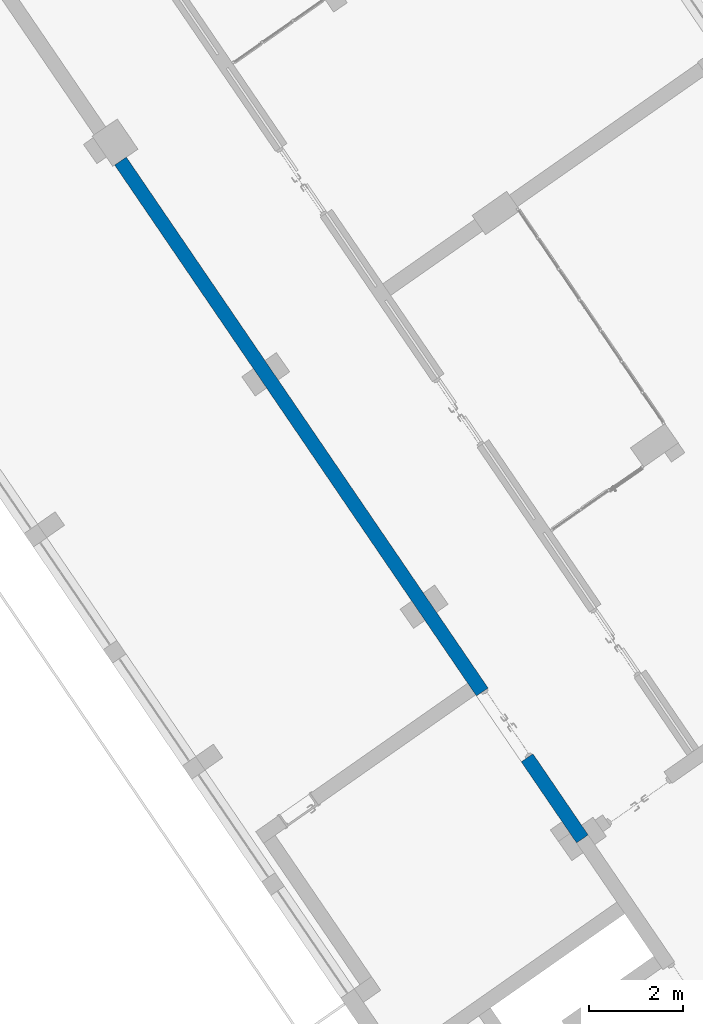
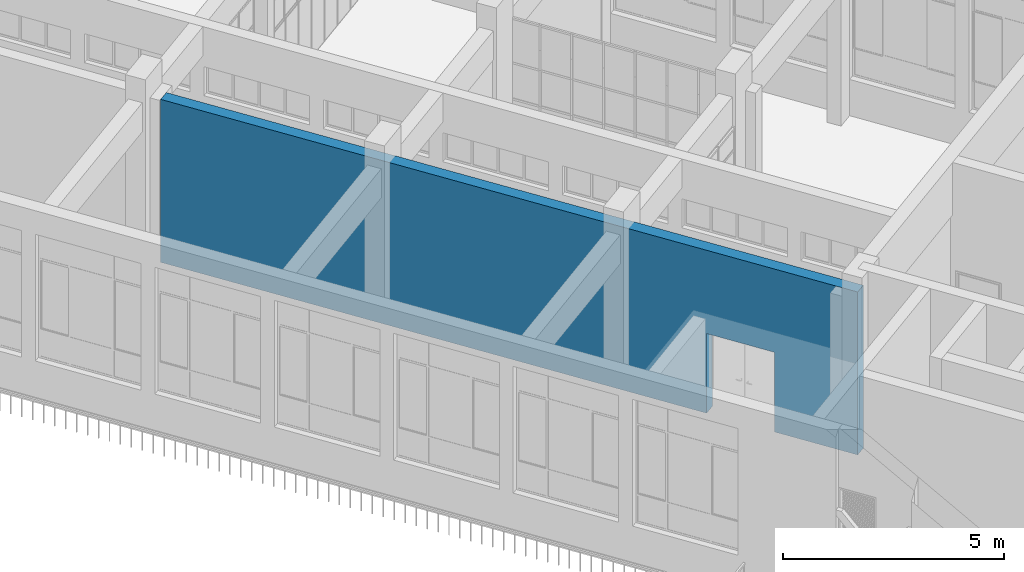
# One storey, part 63 of 157: 1 wall, 1 opening.
"""IFC2X3 building model written with IfcOpenShell, lengths in millimetres."""

import ifcopenshell
import ifcopenshell.guid

model = None  # the IFC model being written
_history = None  # IfcOwnerHistory: only IFC2X3 demands one
_inside = {}  # id of a spatial element -> (the spatial element, [elements in it])
_under = {}  # id of a project, library or spatial element -> (it, [spatial elements below it])
_declared = {}  # id of a project -> (the project, [libraries it declares])
_typed = {}  # id of a type object -> (the type object, [elements of that type])
_made_of = {}  # id of a material, layer set ... -> (it, [elements and type objects made of it])


def new_model(schema):
    """Start an empty IFC model of exactly this schema.

    Asked for "IFC4X3", IfcOpenShell would pick the latest addendum, in which some entities
    have other attributes; the version numbers below select the first issue.
    IFC2X3 requires an IfcOwnerHistory on every rooted entity: one is made here for all.
    """
    global model, _history
    if schema == "IFC4X3":
        model = ifcopenshell.file(schema_version=(4, 3, 0, 0))
    else:
        model = ifcopenshell.file(schema=schema)
    _inside.clear()
    _under.clear()
    _declared.clear()
    _typed.clear()
    _made_of.clear()
    _history = None
    if model.schema == "IFC2X3":
        org = make("IfcOrganization", Name="unknown")
        user = make(
            "IfcPersonAndOrganization",
            ThePerson=make("IfcPerson", FamilyName="unknown"),
            TheOrganization=org,
        )
        app = make(
            "IfcApplication",
            ApplicationDeveloper=org,
            Version="unknown",
            ApplicationFullName="unknown",
            ApplicationIdentifier="unknown",
        )
        _history = make(
            "IfcOwnerHistory",
            OwningUser=user,
            OwningApplication=app,
            ChangeAction="ADDED",
            CreationDate=0,
        )
    return model


def make(cls, **values):
    """One entity of the class cls with the attributes given. An attribute that is None is left unset."""
    return model.create_entity(
        cls, **{name: value for name, value in values.items() if value is not None}
    )


def entity(cls, *values):
    """Any entity or typed value of the class cls, its attributes in the order of the schema. None: left unset."""
    e = model.create_entity(cls)
    for i, value in enumerate(values):
        if value is not None:
            e[i] = value
    return e


def rooted(cls, **values):
    """An entity with a GlobalId (a new one), such as an element, a storey or a relation."""
    return make(cls, GlobalId=ifcopenshell.guid.new(), OwnerHistory=_history, **values)


def si_unit(unit_type, name, prefix=None):
    """IfcSIUnit, for example si_unit("LENGTHUNIT", "METRE", prefix="MILLI")."""
    return make("IfcSIUnit", UnitType=unit_type, Prefix=prefix, Name=name)


def converted_unit(unit_type, name, factor, base, dimensions=None, offset=None):
    """IfcConversionBasedUnit, such as the inch: factor (a typed value) times the base unit."""
    return make(
        "IfcConversionBasedUnit"
        if offset is None
        else "IfcConversionBasedUnitWithOffset",
        ConversionOffset=offset,
        Dimensions=None
        if dimensions is None
        else entity("IfcDimensionalExponents", *dimensions),
        UnitType=unit_type,
        Name=name,
        ConversionFactor=make(
            "IfcMeasureWithUnit", ValueComponent=factor, UnitComponent=base
        ),
    )


def derived_unit(unit_type, elements):
    """IfcDerivedUnit: a product of units, each with its exponent."""
    return make(
        "IfcDerivedUnit",
        Elements=[
            make("IfcDerivedUnitElement", Unit=unit, Exponent=power)
            for unit, power in elements
        ],
        UnitType=unit_type,
    )


def assignment(units):
    """IfcUnitAssignment: the units of a project."""
    return None if units is None else make("IfcUnitAssignment", Units=units)


def point(xyz):
    """IfcCartesianPoint."""
    return None if xyz is None else make("IfcCartesianPoint", Coordinates=xyz)


def direction(xyz):
    """IfcDirection."""
    return None if xyz is None else make("IfcDirection", DirectionRatios=xyz)


def frame(location, z_axis=None, x_axis=None):
    """IfcAxis2Placement3D, a coordinate frame: its origin and axes. An axis left out is left unset."""
    return make(
        "IfcAxis2Placement3D",
        Location=point(location),
        Axis=direction(z_axis),
        RefDirection=direction(x_axis),
    )


def frame_2d(location, x_axis=None):
    """IfcAxis2Placement2D, a coordinate frame in the plane: its origin and x axis."""
    return make(
        "IfcAxis2Placement2D", Location=point(location), RefDirection=direction(x_axis)
    )


def origin():
    """The frame at (0, 0, 0) with its axes left unset."""
    return frame((0.0, 0.0, 0.0))


def place(relative_to, where):
    """IfcLocalPlacement: puts the frame where relative to a parent placement (None: the world)."""
    return make(
        "IfcLocalPlacement", PlacementRelTo=relative_to, RelativePlacement=where
    )


def context(
    kind, dimensions, precision=None, world=None, true_north=None, identifier=None
):
    """IfcGeometricRepresentationContext, for example the 3D "Model" context."""
    return make(
        "IfcGeometricRepresentationContext",
        ContextIdentifier=identifier,
        ContextType=kind,
        CoordinateSpaceDimension=dimensions,
        Precision=precision,
        WorldCoordinateSystem=world,
        TrueNorth=true_north,
    )


def subcontext(parent, identifier, kind, view, scale=None):
    """IfcGeometricRepresentationSubContext, for example "Body" below "Model"."""
    return make(
        "IfcGeometricRepresentationSubContext",
        ContextIdentifier=identifier,
        ContextType=kind,
        ParentContext=parent,
        TargetScale=scale,
        TargetView=view,
    )


def project(units=None, contexts=None):
    """IfcProject with its units and contexts."""
    return rooted(
        "IfcProject",
        Name="project",
        RepresentationContexts=contexts,
        UnitsInContext=assignment(units),
    )


def spatial(cls, under=None, at=None, **own):
    """A site, building, storey or space (cls), placed at a placement, below another one or the project."""
    s = rooted(cls, ObjectPlacement=at, **own)
    if under is not None:
        _under.setdefault(under.id(), (under, []))[1].append(s)
    return s


def profile(cls, at=None, kind="AREA", **sizes):
    """A parametric profile (cls). Its sizes go by their IFC names, for example OverallWidth=200.0."""
    return make(cls, ProfileType=kind, Position=at, **sizes)


def rectangle(**sizes):
    """IfcRectangleProfileDef."""
    return profile("IfcRectangleProfileDef", **sizes)


def extrude(swept, where, along, depth):
    """IfcExtrudedAreaSolid: the profile swept, set in the frame where, extruded along a direction by depth."""
    return make(
        "IfcExtrudedAreaSolid",
        SweptArea=swept,
        Position=where,
        ExtrudedDirection=direction(along),
        Depth=depth,
    )


def shape(context_of_items, identifier, shape_type, items):
    """IfcShapeRepresentation: the items that make up one representation, for example the "Body"."""
    return make(
        "IfcShapeRepresentation",
        ContextOfItems=context_of_items,
        RepresentationIdentifier=identifier,
        RepresentationType=shape_type,
        Items=items,
    )


def material(Name=None, Category=None):
    """IfcMaterial."""
    return make("IfcMaterial", Name=Name, Category=Category)


def layer(
    of_material, thickness, ventilated=None, Name=None, Category=None, Priority=None
):
    """IfcMaterialLayer: one layer of a wall or slab, of a material (None: an air gap)."""
    return make(
        "IfcMaterialLayer",
        Material=of_material,
        LayerThickness=thickness,
        IsVentilated=ventilated,
        Name=Name,
        Category=Category,
        Priority=Priority,
    )


def layer_set(layers, Name=None):
    """IfcMaterialLayerSet."""
    return make("IfcMaterialLayerSet", MaterialLayers=layers, LayerSetName=Name)


def layer_usage(for_layer_set, set_direction, sense, offset, extent=None):
    """IfcMaterialLayerSetUsage: how a layer set lies in its element."""
    return make(
        "IfcMaterialLayerSetUsage",
        ForLayerSet=for_layer_set,
        LayerSetDirection=set_direction,
        DirectionSense=sense,
        OffsetFromReferenceLine=offset,
        ReferenceExtent=extent,
    )


def made_of(thing, what):
    """Note that an element or type object is made of a material, layer set ...; save() writes the relation."""
    if what is not None:
        _made_of.setdefault(what.id(), (what, []))[1].append(thing)
    return thing


def type_object(cls, material=None, **own):
    """A type object (cls), such as IfcWallType, which elements share."""
    return made_of(rooted(cls, **own), material)


def element(
    cls,
    number,
    at=None,
    inside=None,
    cuts=None,
    type_object=None,
    material=None,
    context=None,
    identifier="Body",
    shape_type=None,
    held_by="IfcProductDefinitionShape",
    body=None,
    shapes=None,
    **own,
):
    """One element of the class cls, such as IfcWall. Its Tag is "e" and its number.

    at: its placement. inside: the storey or other place that contains it. cuts: it is an
    opening in that element (IfcRelVoidsElement). A single representation is given by context,
    identifier, shape_type and body (its items); several are given by shapes. held_by: the class
    of the entity that holds the representations. save() writes the other relations.
    """
    e = rooted(cls, Tag="e%d" % number, ObjectPlacement=at, **own)
    if body is not None:
        shapes = [shape(context, identifier, shape_type, body)]
    if shapes is not None:
        e.Representation = make(held_by, Representations=shapes)
    if inside is not None:
        _inside.setdefault(inside.id(), (inside, []))[1].append(e)
    if cuts is not None:
        rooted(
            "IfcRelVoidsElement", RelatingBuildingElement=cuts, RelatedOpeningElement=e
        )
    if type_object is not None:
        _typed.setdefault(type_object.id(), (type_object, []))[1].append(e)
    return made_of(e, material)


def aggregate(whole, parts):
    """IfcRelAggregates: a whole, such as a stair, and the parts it consists of."""
    return rooted("IfcRelAggregates", RelatingObject=whole, RelatedObjects=parts)


def save(model, path):
    """Write the relations noted so far, then the file.

    IfcRelAggregates (storeys below a building ...), IfcRelContainedInSpatialStructure (elements
    in a storey), IfcRelDefinesByType, IfcRelAssociatesMaterial and IfcRelDeclares: one each for
    every whole, place, type object, material and project.
    """
    for whole, parts in _under.values():
        aggregate(whole, parts)
    for where, things in _inside.values():
        rooted(
            "IfcRelContainedInSpatialStructure",
            RelatedElements=things,
            RelatingStructure=where,
        )
    for kind, things in _typed.values():
        rooted("IfcRelDefinesByType", RelatedObjects=things, RelatingType=kind)
    for what, things in _made_of.values():
        rooted("IfcRelAssociatesMaterial", RelatedObjects=things, RelatingMaterial=what)
    for by, libraries in _declared.values():
        rooted("IfcRelDeclares", RelatingContext=by, RelatedDefinitions=libraries)
    model.write(path)


model = new_model("IFC2X3")

# Units and contexts
model_context = context("Model", 3, precision=0.01, world=origin(), true_north=direction((6.123031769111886e-17, 1.0)))
body_context = subcontext(model_context, "Body", "Model", "MODEL_VIEW")
ifc_project = project(units=[si_unit("LENGTHUNIT", "METRE", prefix="MILLI"), si_unit("AREAUNIT", "SQUARE_METRE"), si_unit("VOLUMEUNIT", "CUBIC_METRE"), converted_unit("PLANEANGLEUNIT", "DEGREE", entity("IfcRatioMeasure", 0.017453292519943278), si_unit("PLANEANGLEUNIT", "RADIAN"), dimensions=[0, 0, 0, 0, 0, 0, 0]), si_unit("MASSUNIT", "GRAM", prefix="KILO"), derived_unit("MASSDENSITYUNIT", [(si_unit("MASSUNIT", "GRAM", prefix="KILO"), 1), (si_unit("LENGTHUNIT", "METRE"), -3)]), derived_unit("MOMENTOFINERTIAUNIT", [(si_unit("LENGTHUNIT", "METRE"), 4)]), si_unit("TIMEUNIT", "SECOND"), si_unit("FREQUENCYUNIT", "HERTZ"), si_unit("THERMODYNAMICTEMPERATUREUNIT", "DEGREE_CELSIUS"), derived_unit("THERMALTRANSMITTANCEUNIT", [(si_unit("MASSUNIT", "GRAM", prefix="KILO"), 1), (si_unit("THERMODYNAMICTEMPERATUREUNIT", "KELVIN"), -1), (si_unit("TIMEUNIT", "SECOND"), -3)]), derived_unit("THERMALCONDUCTANCEUNIT", [(si_unit("MASSUNIT", "GRAM", prefix="KILO"), 1), (si_unit("LENGTHUNIT", "METRE"), 1), (si_unit("THERMODYNAMICTEMPERATUREUNIT", "KELVIN"), -1), (si_unit("TIMEUNIT", "SECOND"), -3)]), derived_unit("VOLUMETRICFLOWRATEUNIT", [(si_unit("LENGTHUNIT", "METRE"), 3), (si_unit("TIMEUNIT", "SECOND"), -1)]), derived_unit("MASSFLOWRATEUNIT", [(si_unit("MASSUNIT", "GRAM", prefix="KILO"), 1), (si_unit("TIMEUNIT", "SECOND"), -1)]), derived_unit("ROTATIONALFREQUENCYUNIT", [(si_unit("TIMEUNIT", "SECOND"), -1)]), si_unit("ELECTRICCURRENTUNIT", "AMPERE"), si_unit("ELECTRICVOLTAGEUNIT", "VOLT"), si_unit("POWERUNIT", "WATT"), converted_unit("FORCEUNIT", "KIP", entity("IfcRatioMeasure", 2.088543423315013e-05), si_unit("FORCEUNIT", "NEWTON"), dimensions=[1, 1, -2, 0, 0, 0, 0]), si_unit("ILLUMINANCEUNIT", "LUX"), si_unit("LUMINOUSFLUXUNIT", "LUMEN"), si_unit("LUMINOUSINTENSITYUNIT", "CANDELA"), derived_unit("USERDEFINED", [(si_unit("MASSUNIT", "GRAM", prefix="KILO"), -1), (si_unit("LENGTHUNIT", "METRE"), -2), (si_unit("TIMEUNIT", "SECOND"), 3), (si_unit("LUMINOUSFLUXUNIT", "LUMEN"), 1)]), derived_unit("USERDEFINED", [(si_unit("MASSUNIT", "GRAM", prefix="KILO"), 1), (si_unit("LENGTHUNIT", "METRE"), 3), (si_unit("TIMEUNIT", "SECOND"), -3), (si_unit("ELECTRICCURRENTUNIT", "AMPERE"), -2)]), derived_unit("USERDEFINED", [(si_unit("LENGTHUNIT", "METRE"), 2), (si_unit("TIMEUNIT", "SECOND"), -2)]), derived_unit("SOUNDPOWERUNIT", [(si_unit("MASSUNIT", "GRAM", prefix="KILO"), 1), (si_unit("LENGTHUNIT", "METRE"), 2), (si_unit("TIMEUNIT", "SECOND"), -3)]), derived_unit("SOUNDPRESSUREUNIT", [(si_unit("MASSUNIT", "GRAM", prefix="KILO"), 1), (si_unit("LENGTHUNIT", "METRE"), -1), (si_unit("TIMEUNIT", "SECOND"), -2)]), derived_unit("LINEARVELOCITYUNIT", [(si_unit("LENGTHUNIT", "METRE"), 1), (si_unit("TIMEUNIT", "SECOND"), -1)]), si_unit("PRESSUREUNIT", "PASCAL"), derived_unit("USERDEFINED", [(si_unit("LENGTHUNIT", "METRE"), -2), (si_unit("MASSUNIT", "GRAM", prefix="KILO"), 1), (si_unit("TIMEUNIT", "SECOND"), -2)]), derived_unit("LINEARFORCEUNIT", [(si_unit("MASSUNIT", "GRAM", prefix="KILO"), 1), (si_unit("LENGTHUNIT", "METRE"), 1), (si_unit("TIMEUNIT", "SECOND"), -2), (si_unit("LENGTHUNIT", "METRE"), -1)]), derived_unit("PLANARFORCEUNIT", [(si_unit("MASSUNIT", "GRAM", prefix="KILO"), 1), (si_unit("LENGTHUNIT", "METRE"), 1), (si_unit("TIMEUNIT", "SECOND"), -2), (si_unit("LENGTHUNIT", "METRE"), -2)]), derived_unit("SPECIFICHEATCAPACITYUNIT", [(si_unit("LENGTHUNIT", "METRE"), 2), (si_unit("TIMEUNIT", "SECOND"), -2), (si_unit("THERMODYNAMICTEMPERATUREUNIT", "KELVIN"), -1)]), derived_unit("VAPORPERMEABILITYUNIT", [(si_unit("TIMEUNIT", "SECOND"), 1), (si_unit("LENGTHUNIT", "METRE"), -1)]), derived_unit("DYNAMICVISCOSITYUNIT", [(si_unit("MASSUNIT", "GRAM", prefix="KILO"), 1), (si_unit("LENGTHUNIT", "METRE"), -1), (si_unit("TIMEUNIT", "SECOND"), -1)]), derived_unit("THERMALEXPANSIONCOEFFICIENTUNIT", [(si_unit("THERMODYNAMICTEMPERATUREUNIT", "KELVIN"), -1)])], contexts=[model_context])

# Site, building, storey
site_placement = place(None, frame((0.0, 0.0, 0.0), z_axis=(0.0, 0.0, 1.0), x_axis=(0.8191520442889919, 0.5735764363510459, 0.0)))
site = spatial("IfcSite", under=ifc_project, at=site_placement, Name="Default", CompositionType="ELEMENT")
building_placement = place(site_placement, origin())
building = spatial("IfcBuilding", under=site, at=building_placement, CompositionType="ELEMENT")
storey_placement = place(building_placement, origin())
storey = spatial("IfcBuildingStorey", under=building, at=storey_placement, Name="1.EG +0.00", CompositionType="ELEMENT", Elevation=-4.331468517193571e-12)

# Wall, opening
ifc_material = material(Name="Analytical Wall Surface_CJC")
ifc_layer = layer(ifc_material, 300.0)
ifc_layer_set = layer_set([ifc_layer], Name="Basic Wall:Wand_Innen_30")
ifc_layer_usage = layer_usage(ifc_layer_set, "AXIS2", "NEGATIVE", 150.0)
wall_type = type_object("IfcWallType", Name="Basic Wall:Wand_Innen_30", PredefinedType="STANDARD", material=ifc_layer_set)
wall_placement = place(storey_placement, frame((-217613.96853952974, 61398.7281952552, 0.0), z_axis=(0.0, 0.0, 1.0), x_axis=(0.012736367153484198, 0.9999188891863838, 0.0)))
wall = element("IfcWallStandardCase", 1, at=wall_placement, inside=storey, type_object=wall_type, material=ifc_layer_usage, Name="Basic Wall:Wand_Innen_30", ObjectType="Basic Wall:Wand_Innen_30", context=body_context, shape_type="SweptSolid", body=[
    extrude(rectangle(XDim=17504.785805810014, YDim=300.00000000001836, at=frame_2d((8752.392902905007, -3.836930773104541e-12), x_axis=(-1.0, 0.0))), origin(), (0.0, 0.0, 1.0), 4500.0),
])
opening_placement = place(wall_placement, frame((3793.8358058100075, 150.0, 0.0)))
element("IfcOpeningElement", 2, at=opening_placement, cuts=wall, Name="M_Door-Passage-Double-Flush:160x210:1", ObjectType="Opening", context=body_context, shape_type="SweptSolid", body=[
    extrude(rectangle(XDim=2200.0, YDim=1699.9999999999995, at=frame_2d((1100.0, 849.9999999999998), x_axis=(1.0, 0.0))), frame((0.0, 0.0, 0.0), z_axis=(0.0, -1.0, 0.0), x_axis=(0.0, 0.0, 1.0)), (0.0, 0.0, 1.0), 300.0),
])

save(model, "model.ifc")
